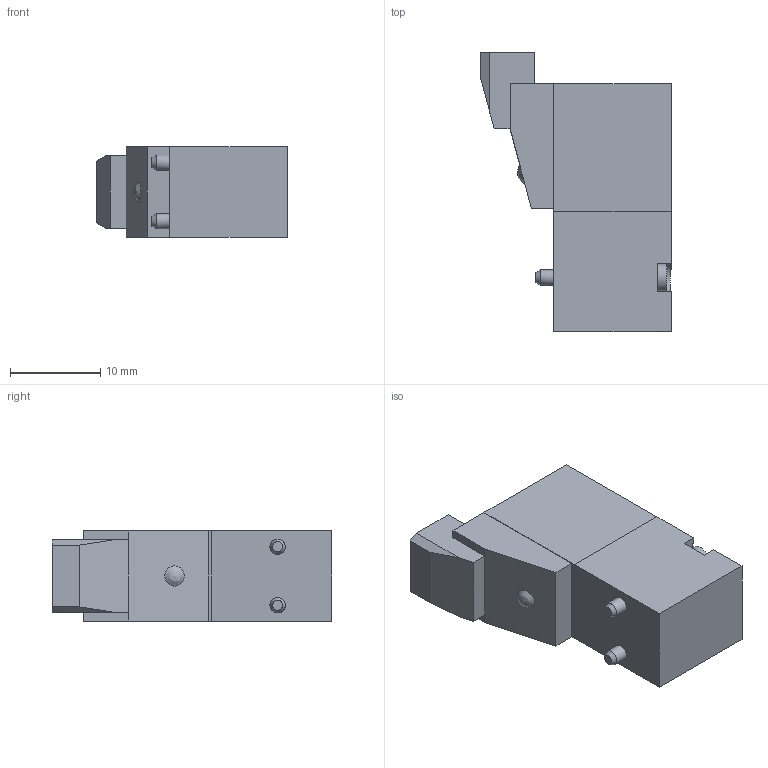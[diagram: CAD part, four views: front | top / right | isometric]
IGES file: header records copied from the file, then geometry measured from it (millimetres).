
Global section: file name: N3##_3R; native system: Autodesk Inventor 2014; preprocessor: unknown; author: A. Manieri; organization: Pneumax S.p.A.; date: 20161005.083551; units: millimetre
Bounding box: 21.1 x 31 x 10 mm (x, y, z)
Volume: 4274.3 mm3; surface area: 2049.7 mm2
Topology: 1 solids, 1 shells, 90 faces, 227 edges, 149 vertices
Faces by surface type: bspline 90
